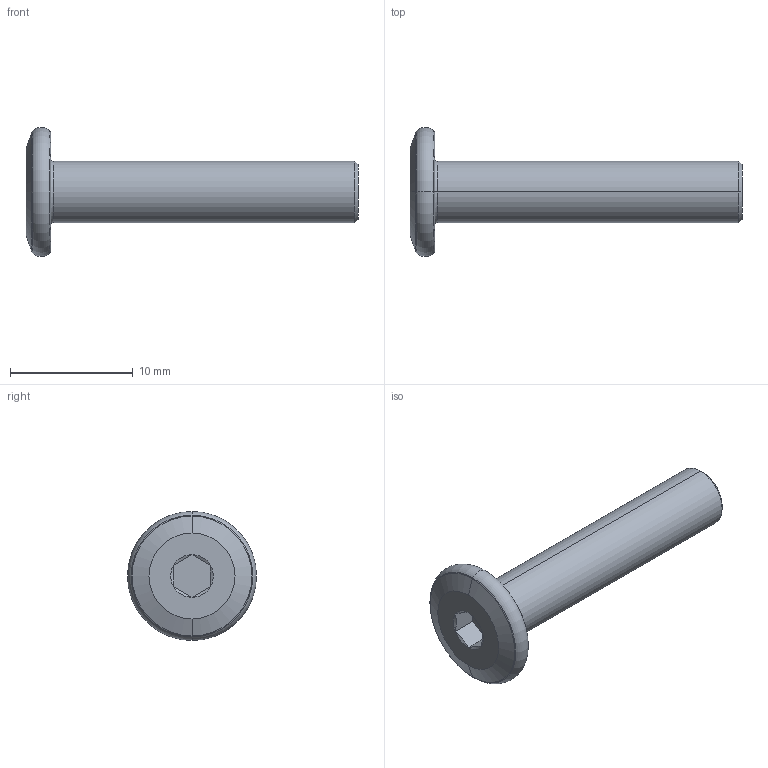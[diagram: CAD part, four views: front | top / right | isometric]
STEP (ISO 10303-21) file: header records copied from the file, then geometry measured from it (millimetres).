
FILE_DESCRIPTION (( 'STEP AP203' ), '1' );
FILE_NAME ('LGD-304D-M5x25.STEP', '2026-08-13T07:27:52', ( '' ), ( '' ), 'SwSTEP 2.0', 'SolidWorks 2020', '' );
FILE_SCHEMA (( 'CONFIG_CONTROL_DESIGN' ));
Length unit declared in the file: millimetre
Products named in the file (1): LGD-304D-M5x25
Bounding box: 27 x 10.5 x 10.5 mm (x, y, z)
Volume: 627.5 mm3; surface area: 616.9 mm2
Topology: 1 solids, 1 shells, 30 faces, 56 edges, 30 vertices
Faces by surface type: cone 10, plane 10, torus 8, cylinder 2
Entity records: 835 total; most frequent: CARTESIAN_POINT 151, DIRECTION 144, ORIENTED_EDGE 112, AXIS2_PLACEMENT_3D 63, EDGE_CURVE 56, CIRCLE 32, EDGE_LOOP 32, FACE_OUTER_BOUND 30
